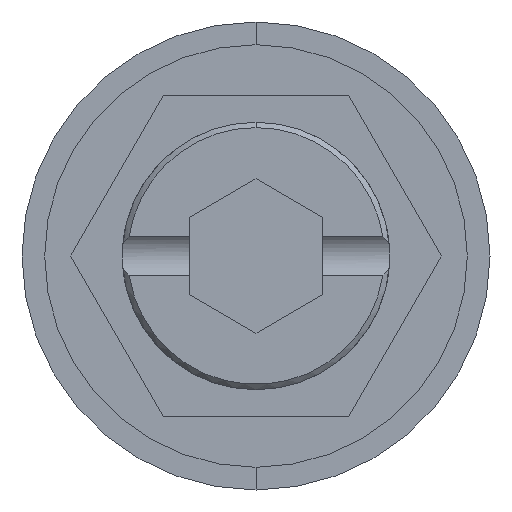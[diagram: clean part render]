
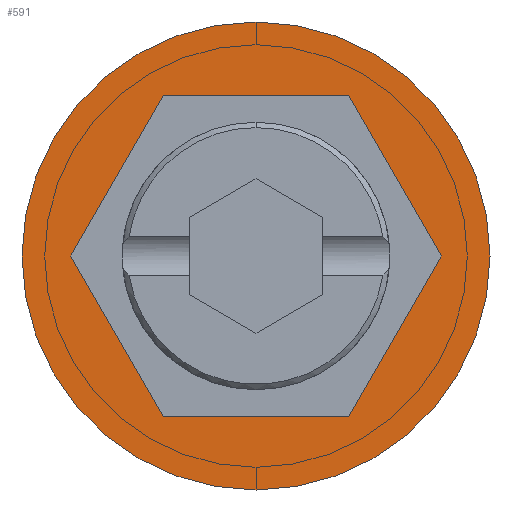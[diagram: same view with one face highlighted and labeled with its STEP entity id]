
A CAD part, front view. The second image highlights one B-rep face of the part: STEP entity #591.
In plain terms, the highlighted planar face has unit normal (0, -1, 0).
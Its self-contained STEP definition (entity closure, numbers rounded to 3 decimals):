
#47 = VECTOR ( 'NONE', #840, 1000. ) ;
#63 = CARTESIAN_POINT ( 'NONE',  ( 0., 0., 8.75 ) ) ;
#66 = LINE ( 'NONE', #833, #47 ) ;
#109 = LINE ( 'NONE', #1140, #122 ) ;
#122 = VECTOR ( 'NONE', #1131, 1000. ) ;
#154 = CARTESIAN_POINT ( 'NONE',  ( -6.928, 0., 0. ) ) ;
#163 = VECTOR ( 'NONE', #1325, 1000. ) ;
#185 = LINE ( 'NONE', #1369, #163 ) ;
#195 = VECTOR ( 'NONE', #1476, 1000. ) ;
#197 = LINE ( 'NONE', #154, #195 ) ;
#198 = LINE ( 'NONE', #664, #2226 ) ;
#243 = VECTOR ( 'NONE', #1603, 1000. ) ;
#259 = LINE ( 'NONE', #1565, #243 ) ;
#293 = AXIS2_PLACEMENT_3D ( 'NONE', #1204, #1237, #1247 ) ;
#483 = DIRECTION ( 'NONE',  ( 0., 0., -1. ) ) ;
#485 = DIRECTION ( 'NONE',  ( 0., -1., 0. ) ) ;
#488 = CARTESIAN_POINT ( 'NONE',  ( 0., 0., 0. ) ) ;
#513 = FACE_OUTER_BOUND ( 'NONE', #1265, .T. ) ;
#534 = FACE_BOUND ( 'NONE', #1518, .T. ) ;
#553 = DIRECTION ( 'NONE',  ( 0., 0., -1. ) ) ;
#556 = DIRECTION ( 'NONE',  ( 0., -1., 0. ) ) ;
#560 = CARTESIAN_POINT ( 'NONE',  ( 0., 0., 0. ) ) ;
#591 = ADVANCED_FACE ( 'NONE', ( #534, #513 ), #1113, .T. ) ;
#664 = CARTESIAN_POINT ( 'NONE',  ( 3.464, 0., -6. ) ) ;
#667 = DIRECTION ( 'NONE',  ( 0.5, 0., 0.866 ) ) ;
#810 = CARTESIAN_POINT ( 'NONE',  ( -6.928, 0., 0. ) ) ;
#824 = CARTESIAN_POINT ( 'NONE',  ( 3.464, 0., 6. ) ) ;
#833 = CARTESIAN_POINT ( 'NONE',  ( 6.928, 0., 0. ) ) ;
#840 = DIRECTION ( 'NONE',  ( -0.5, 0., 0.866 ) ) ;
#942 = VERTEX_POINT ( 'NONE', #2001 ) ;
#976 = VERTEX_POINT ( 'NONE', #2108 ) ;
#1019 = VERTEX_POINT ( 'NONE', #2162 ) ;
#1092 = VERTEX_POINT ( 'NONE', #2220 ) ;
#1113 = PLANE ( 'NONE',  #293 ) ;
#1131 = DIRECTION ( 'NONE',  ( -1., 0., 0. ) ) ;
#1140 = CARTESIAN_POINT ( 'NONE',  ( 3.464, 0., 6. ) ) ;
#1204 = CARTESIAN_POINT ( 'NONE',  ( 0., 0., 0. ) ) ;
#1237 = DIRECTION ( 'NONE',  ( 0., -1., 0. ) ) ;
#1247 = DIRECTION ( 'NONE',  ( 0., 0., -1. ) ) ;
#1252 = AXIS2_PLACEMENT_3D ( 'NONE', #488, #485, #483 ) ;
#1265 = EDGE_LOOP ( 'NONE', ( #1974, #2177 ) ) ;
#1304 = EDGE_CURVE ( 'NONE', #976, #942, #259, .T. ) ;
#1320 = CARTESIAN_POINT ( 'NONE',  ( 0., 0., -8.75 ) ) ;
#1325 = DIRECTION ( 'NONE',  ( -0.5, 0., -0.866 ) ) ;
#1369 = CARTESIAN_POINT ( 'NONE',  ( -3.464, 0., 6. ) ) ;
#1377 = AXIS2_PLACEMENT_3D ( 'NONE', #560, #556, #553 ) ;
#1395 = EDGE_CURVE ( 'NONE', #1736, #976, #197, .T. ) ;
#1462 = EDGE_CURVE ( 'NONE', #1019, #1736, #185, .T. ) ;
#1465 = VERTEX_POINT ( 'NONE', #1320 ) ;
#1476 = DIRECTION ( 'NONE',  ( 0.5, 0., -0.866 ) ) ;
#1518 = EDGE_LOOP ( 'NONE', ( #1902, #1970, #1942, #2248, #1954, #2023 ) ) ;
#1565 = CARTESIAN_POINT ( 'NONE',  ( -3.464, 0., -6. ) ) ;
#1593 = EDGE_CURVE ( 'NONE', #1716, #1019, #109, .T. ) ;
#1603 = DIRECTION ( 'NONE',  ( 1., 0., 0. ) ) ;
#1709 = EDGE_CURVE ( 'NONE', #1092, #1716, #66, .T. ) ;
#1716 = VERTEX_POINT ( 'NONE', #824 ) ;
#1736 = VERTEX_POINT ( 'NONE', #810 ) ;
#1818 = EDGE_CURVE ( 'NONE', #942, #1092, #198, .T. ) ;
#1868 = EDGE_CURVE ( 'NONE', #1465, #2232, #2052, .T. ) ;
#1890 = EDGE_CURVE ( 'NONE', #2232, #1465, #2009, .T. ) ;
#1902 = ORIENTED_EDGE ( 'NONE', *, *, #1304, .F. ) ;
#1942 = ORIENTED_EDGE ( 'NONE', *, *, #1462, .F. ) ;
#1954 = ORIENTED_EDGE ( 'NONE', *, *, #1709, .F. ) ;
#1970 = ORIENTED_EDGE ( 'NONE', *, *, #1395, .F. ) ;
#1974 = ORIENTED_EDGE ( 'NONE', *, *, #1868, .T. ) ;
#2001 = CARTESIAN_POINT ( 'NONE',  ( 3.464, 0., -6. ) ) ;
#2009 = CIRCLE ( 'NONE', #1252, 8.75 ) ;
#2023 = ORIENTED_EDGE ( 'NONE', *, *, #1818, .F. ) ;
#2052 = CIRCLE ( 'NONE', #1377, 8.75 ) ;
#2108 = CARTESIAN_POINT ( 'NONE',  ( -3.464, 0., -6. ) ) ;
#2162 = CARTESIAN_POINT ( 'NONE',  ( -3.464, 0., 6. ) ) ;
#2177 = ORIENTED_EDGE ( 'NONE', *, *, #1890, .T. ) ;
#2220 = CARTESIAN_POINT ( 'NONE',  ( 6.928, 0., 0. ) ) ;
#2226 = VECTOR ( 'NONE', #667, 1000. ) ;
#2232 = VERTEX_POINT ( 'NONE', #63 ) ;
#2248 = ORIENTED_EDGE ( 'NONE', *, *, #1593, .F. ) ;
